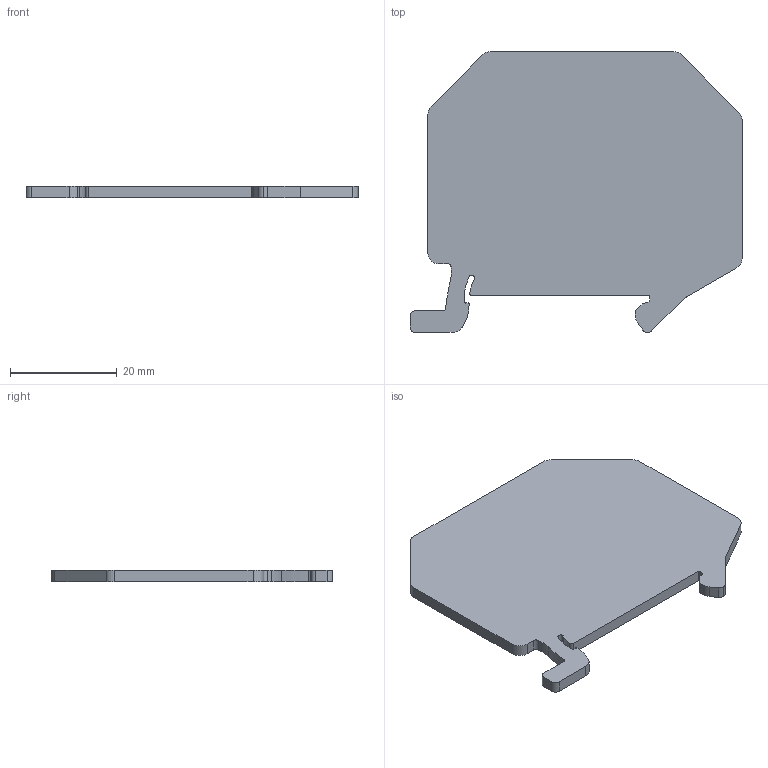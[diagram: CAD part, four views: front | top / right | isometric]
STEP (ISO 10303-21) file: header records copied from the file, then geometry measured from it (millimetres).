
FILE_DESCRIPTION(('OneSpaceDesigner STEP Export'),'2;1');
FILE_NAME('3047183_atp_ut_twin_select.stp','2005-03-02T 8:57:27',(''),(''),'OneSpace Designer STEP processor (Jan. 2003) for AP203(Solid Model)','OneSpace Designer 12.01C 26-Mar-2004 (C) CoCreate Software GmbH','');
FILE_SCHEMA(('CONFIG_CONTROL_DESIGN'));
Length unit declared in the file: millimetre
Products named in the file (2): 3047183_atp_ut_twin_select
Assembly tree (1 placements, depth 2):
  3047183_atp_ut_twin_select
    3047183_atp_ut_twin_select
Bounding box: 62.15 x 52.55 x 2.2 mm (x, y, z)
Volume: 5685.8 mm3; surface area: 5689.4 mm2
Topology: 1 solids, 1 shells, 53 faces, 153 edges, 102 vertices
Faces by surface type: cylinder 29, plane 24
Entity records: 1942 total; most frequent: ORIENTED_EDGE 306, DIRECTION 303, CARTESIAN_POINT 301, EDGE_CURVE 153, AXIS2_PLACEMENT_3D 104, VERTEX_POINT 102, VECTOR 95, LINE 95
